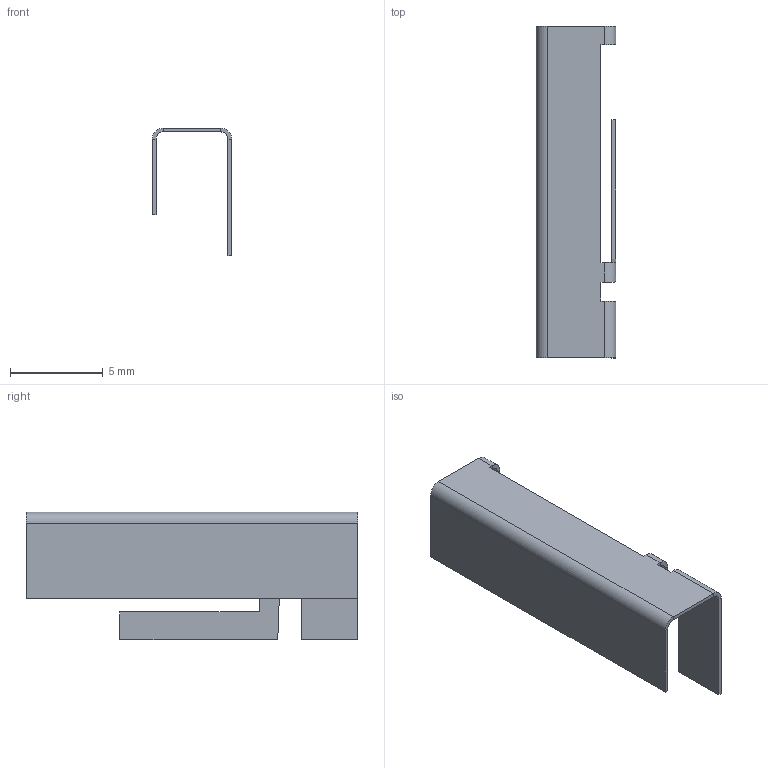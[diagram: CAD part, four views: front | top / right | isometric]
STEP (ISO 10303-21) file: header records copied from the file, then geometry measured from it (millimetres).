
FILE_DESCRIPTION((''),'2;1');
FILE_NAME('1000146','2015-04-14T',('elin'),(''),'PRO/ENGINEER BY PARAMETRIC TECHNOLOGY CORPORATION, 2011330','PRO/ENGINEER BY PARAMETRIC TECHNOLOGY CORPORATION, 2011330','');
FILE_SCHEMA(('CONFIG_CONTROL_DESIGN'));
Length unit declared in the file: millimetre
Products named in the file (1): 1000146
Bounding box: 4.27 x 17.85 x 6.87 mm (x, y, z)
Volume: 36.1 mm3; surface area: 380.7 mm2
Topology: 1 solids, 1 shells, 48 faces, 106 edges, 60 vertices
Faces by surface type: plane 38, cylinder 8, bspline 2
Entity records: 1392 total; most frequent: CARTESIAN_POINT 316, ORIENTED_EDGE 212, DIRECTION 206, EDGE_CURVE 106, VECTOR 90, LINE 90, VERTEX_POINT 60, AXIS2_PLACEMENT_3D 58
